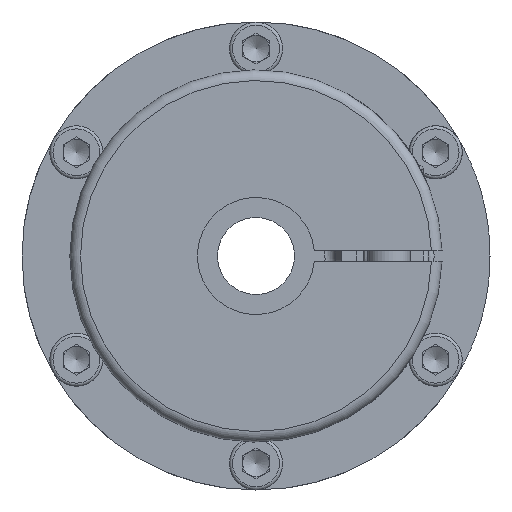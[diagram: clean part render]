
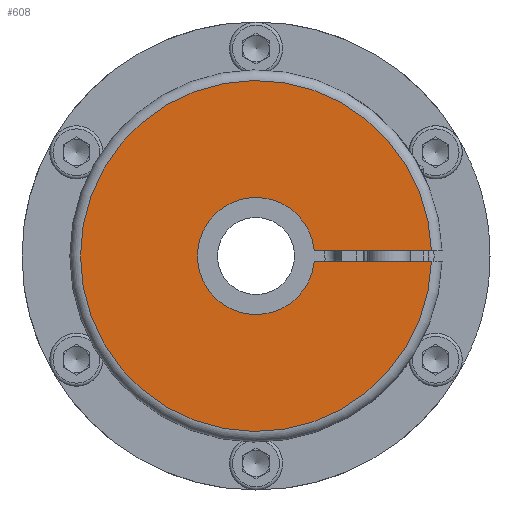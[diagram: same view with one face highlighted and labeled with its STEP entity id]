
A CAD part, left-side view. The second image highlights one B-rep face of the part: STEP entity #608.
In plain terms, the highlighted planar face has unit normal (-1, 0, 0).
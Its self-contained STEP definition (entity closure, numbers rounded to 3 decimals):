
#608 = ADVANCED_FACE( '', ( #1651 ), #1652, .T. );
#1651 = FACE_OUTER_BOUND( '', #3290, .T. );
#1652 = PLANE( '', #3291 );
#3290 = EDGE_LOOP( '', ( #5177, #5178, #5179, #5180 ) );
#3291 = AXIS2_PLACEMENT_3D( '', #5181, #5182, #5183 );
#5177 = ORIENTED_EDGE( '', *, *, #9129, .T. );
#5178 = ORIENTED_EDGE( '', *, *, #9130, .T. );
#5179 = ORIENTED_EDGE( '', *, *, #9131, .T. );
#5180 = ORIENTED_EDGE( '', *, *, #9132, .T. );
#5181 = CARTESIAN_POINT( '', ( -54.05, 0., 7.5 ) );
#5182 = DIRECTION( '', ( -1., 0., 0. ) );
#5183 = DIRECTION( '', ( 0., 0., 1. ) );
#9129 = EDGE_CURVE( '', #10915, #10916, #10917, .T. );
#9130 = EDGE_CURVE( '', #10916, #10918, #10919, .T. );
#9131 = EDGE_CURVE( '', #10918, #10920, #10921, .T. );
#9132 = EDGE_CURVE( '', #10920, #10915, #10922, .T. );
#10915 = VERTEX_POINT( '', #13820 );
#10916 = VERTEX_POINT( '', #13821 );
#10917 = LINE( '', #13822, #13823 );
#10918 = VERTEX_POINT( '', #13824 );
#10919 = CIRCLE( '', #13825, 11. );
#10920 = VERTEX_POINT( '', #13826 );
#10921 = LINE( '', #13827, #13828 );
#10922 = CIRCLE( '', #13829, 33. );
#13820 = CARTESIAN_POINT( '', ( -54.05, -32.985, -1. ) );
#13821 = CARTESIAN_POINT( '', ( -54.05, -10.954, -1. ) );
#13822 = CARTESIAN_POINT( '', ( -54.05, -34.986, -1. ) );
#13823 = VECTOR( '', #18458, 1000. );
#13824 = CARTESIAN_POINT( '', ( -54.05, -10.954, 1. ) );
#13825 = AXIS2_PLACEMENT_3D( '', #18459, #18460, #18461 );
#13826 = CARTESIAN_POINT( '', ( -54.05, -32.985, 1. ) );
#13827 = CARTESIAN_POINT( '', ( -54.05, -7.433, 1. ) );
#13828 = VECTOR( '', #18462, 1000. );
#13829 = AXIS2_PLACEMENT_3D( '', #18463, #18464, #18465 );
#18458 = DIRECTION( '', ( 0., 1., 0. ) );
#18459 = CARTESIAN_POINT( '', ( -54.05, 0., 0. ) );
#18460 = DIRECTION( '', ( 1., 0., 0. ) );
#18461 = DIRECTION( '', ( 0., -1., 0. ) );
#18462 = DIRECTION( '', ( 0., -1., 0. ) );
#18463 = CARTESIAN_POINT( '', ( -54.05, 0., 0. ) );
#18464 = DIRECTION( '', ( -1., 0., 0. ) );
#18465 = DIRECTION( '', ( 0., 0., 1. ) );
